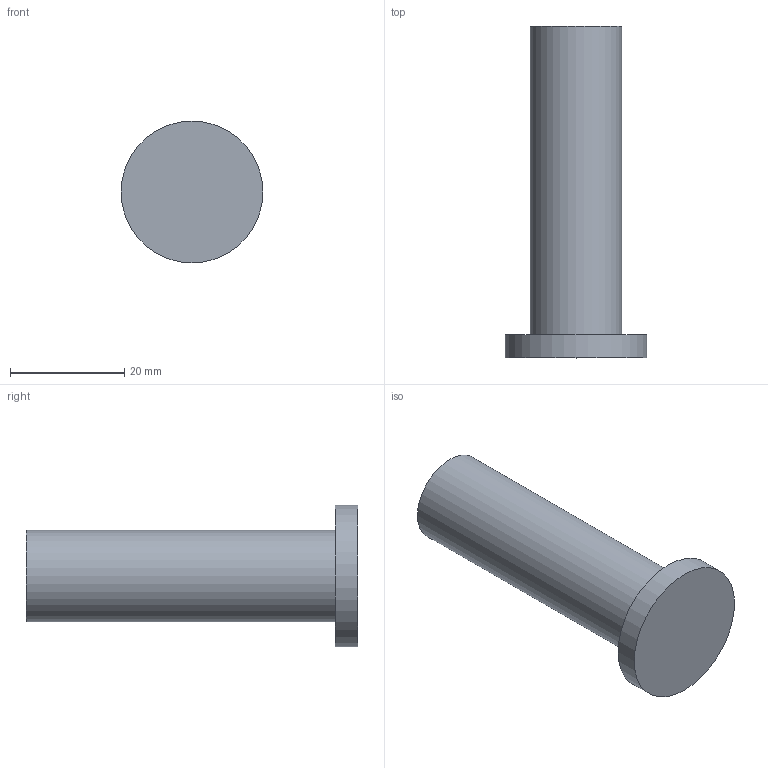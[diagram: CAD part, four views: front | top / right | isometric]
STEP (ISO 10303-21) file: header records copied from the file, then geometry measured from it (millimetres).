
FILE_DESCRIPTION(('Open CASCADE Model'),'2;1');
FILE_NAME('Open CASCADE Shape Model','2026-10-20T13:19:34',('Author'),( 'Open CASCADE'),'Open CASCADE STEP processor 7.9','Open CASCADE 7.9' ,'Unknown');
FILE_SCHEMA(('AUTOMOTIVE_DESIGN { 1 0 10303 214 1 1 1 1 }'));
Length unit declared in the file: millimetre
Products named in the file (1): Open CASCADE STEP translator 7.9 11
Bounding box: 24.8 x 58 x 24.8 mm (x, y, z)
Volume: 12789.5 mm3; surface area: 3992.1 mm2
Topology: 1 solids, 1 shells, 5 faces, 6 edges, 4 vertices
Faces by surface type: plane 3, cylinder 2
Full cylindrical faces by diameter (mm): 16 x1, 24.8 x1
Entity records: 192 total; most frequent: DIRECTION 34, CARTESIAN_POINT 28, ORIENTED_EDGE 12, PCURVE 12, DEFINITIONAL_REPRESENTATION 12, AXIS2_PLACEMENT_3D 10, LINE 10, VECTOR 10
